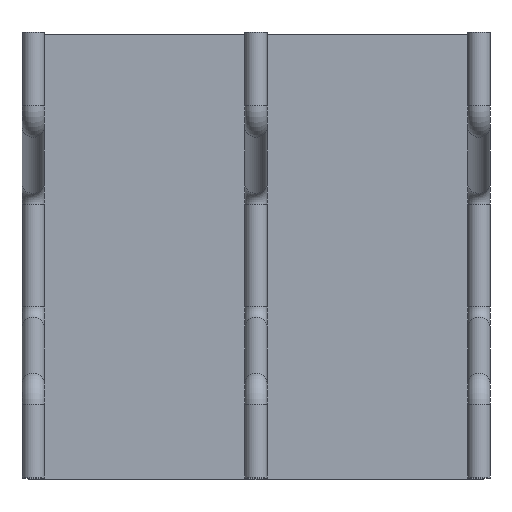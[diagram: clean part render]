
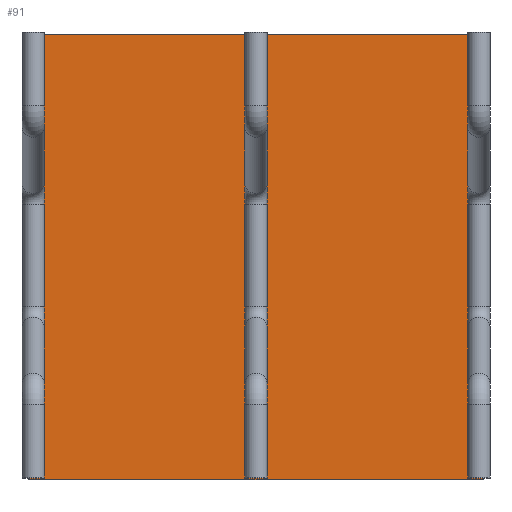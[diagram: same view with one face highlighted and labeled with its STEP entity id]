
A CAD part, top view. The second image highlights one B-rep face of the part: STEP entity #91.
In plain terms, the highlighted planar face has unit normal (0, 0, 1).
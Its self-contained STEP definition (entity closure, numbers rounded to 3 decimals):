
#52=CARTESIAN_POINT('Axis2P3D Location',(0.,0.,0.)) ;
#57=CARTESIAN_POINT('Line Origine',(0.,500.,0.)) ;
#61=CARTESIAN_POINT('Vertex',(510.,500.,0.)) ;
#63=CARTESIAN_POINT('Vertex',(-510.,500.,0.)) ;
#66=CARTESIAN_POINT('Line Origine',(-510.,0.,0.)) ;
#70=CARTESIAN_POINT('Vertex',(-510.,-500.,0.)) ;
#73=CARTESIAN_POINT('Line Origine',(0.,-500.,0.)) ;
#77=CARTESIAN_POINT('Vertex',(510.,-500.,0.)) ;
#80=CARTESIAN_POINT('Line Origine',(510.,0.,0.)) ;
#53=DIRECTION('Axis2P3D Direction',(0.,0.,1.)) ;
#54=DIRECTION('Axis2P3D XDirection',(1.,0.,0.)) ;
#58=DIRECTION('Vector Direction',(1.,0.,0.)) ;
#67=DIRECTION('Vector Direction',(0.,1.,0.)) ;
#74=DIRECTION('Vector Direction',(-1.,0.,0.)) ;
#81=DIRECTION('Vector Direction',(0.,-1.,0.)) ;
#55=AXIS2_PLACEMENT_3D('Plane Axis2P3D',#52,#53,#54) ;
#86=ORIENTED_EDGE('',*,*,#65,.T.) ;
#87=ORIENTED_EDGE('',*,*,#72,.T.) ;
#88=ORIENTED_EDGE('',*,*,#79,.T.) ;
#89=ORIENTED_EDGE('',*,*,#84,.T.) ;
#59=VECTOR('Line Direction',#58,1.) ;
#68=VECTOR('Line Direction',#67,1.) ;
#75=VECTOR('Line Direction',#74,1.) ;
#82=VECTOR('Line Direction',#81,1.) ;
#91=ADVANCED_FACE('Fill.1',(#90),#56,.T.) ;
#65=EDGE_CURVE('',#62,#64,#60,.F.) ;
#72=EDGE_CURVE('',#64,#71,#69,.F.) ;
#79=EDGE_CURVE('',#71,#78,#76,.F.) ;
#84=EDGE_CURVE('',#78,#62,#83,.F.) ;
#85=EDGE_LOOP('',(#86,#87,#88,#89)) ;
#90=FACE_OUTER_BOUND('',#85,.T.) ;
#60=LINE('Line',#57,#59) ;
#69=LINE('Line',#66,#68) ;
#76=LINE('Line',#73,#75) ;
#83=LINE('Line',#80,#82) ;
#56=PLANE('',#55) ;
#62=VERTEX_POINT('',#61) ;
#64=VERTEX_POINT('',#63) ;
#71=VERTEX_POINT('',#70) ;
#78=VERTEX_POINT('',#77) ;
